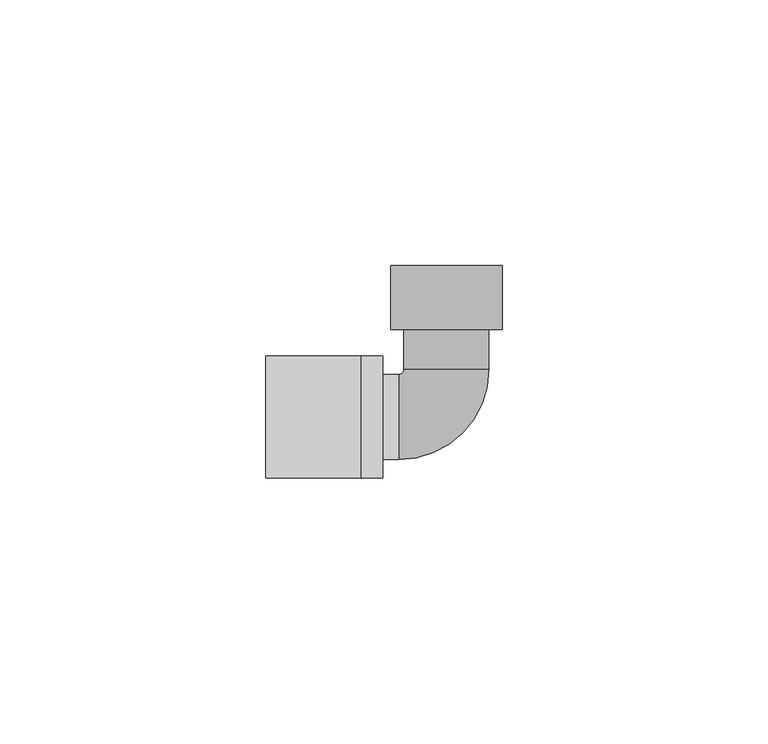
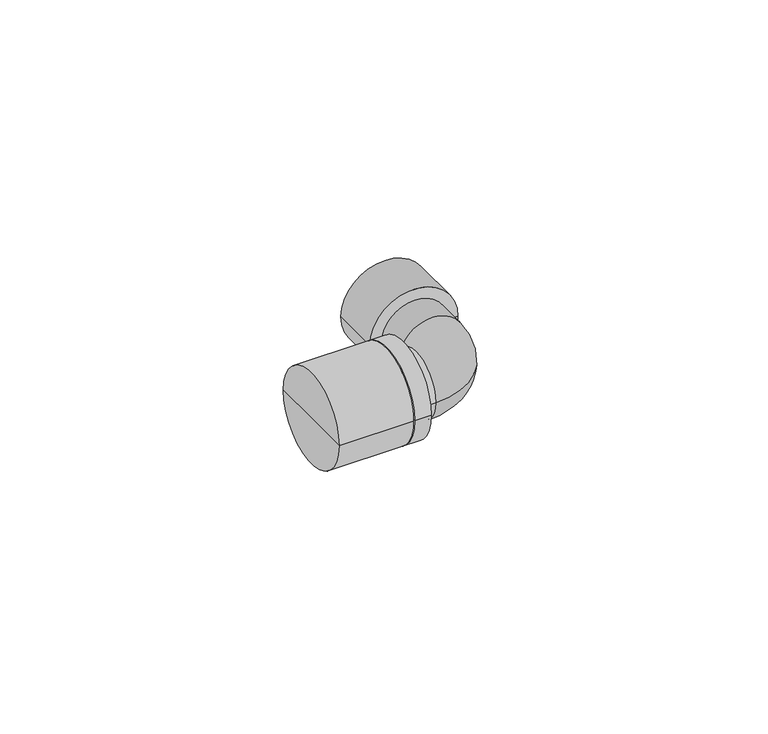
"""IFC4 building model written with IfcOpenShell, lengths in millimetres: pipe fitting geometry, KAN-therm Push 18x2 kolano gz 1-2 : KAN-therm Push 18x2 kolano gz 1-2."""

from ifc_helpers import new_model, si_unit, point, frame, origin, place, context, project, spatial, circle_curve, ellipse_curve, trimmed, source, transform, mapped, element, save
from ifc_brep_helpers import plane_surface, cylinder_surface, revolved_surface, advanced_brep


def pipe_fitting_71039134(model_context):
    return source(origin(), model_context, "Body", "AdvancedBrep", [
        advanced_brep(
        [(-16.0, 11.5, 0.0), (-16.0, -11.5, 0.0), (-16.0, 0.0, 0.0), (-12.0, 11.5, 0.0), (-12.0, -11.5, 0.0), (-12.0, 0.0, 0.0)],
        [
            (0, 1, circle_curve(frame((-16.0, 0.0, 0.0), z_axis=(-1.0, 0.0, 0.0), x_axis=(0.0, -1.0, 0.0)), 11.5)),
            (1, 2),
            (2, 0),
            (1, 0, circle_curve(frame((-16.0, 0.0, 0.0), z_axis=(-1.0, 0.0, 0.0), x_axis=(0.0, -1.0, 0.0)), 11.5)),
            (3, 4, circle_curve(frame((-12.0, 0.0, 0.0), z_axis=(-1.0, 0.0, 0.0), x_axis=(0.0, -1.0, 0.0)), 11.5)),
            (4, 1),
            (0, 3),
            (4, 3, circle_curve(frame((-12.0, 0.0, 0.0), z_axis=(-1.0, 0.0, 0.0), x_axis=(0.0, -1.0, 0.0)), 11.5)),
            (5, 4),
            (3, 5),
        ],
        [
            plane_surface(frame((-16.0, 0.0, 0.0), z_axis=(-1.0, 0.0, 0.0), x_axis=(0.0, -1.0, 0.0))),
            cylinder_surface(frame((-2011.0, 0.0, 0.0), z_axis=(1.0, 0.0, 0.0), x_axis=(0.0, -1.0, 0.0)), 11.5),
            plane_surface(frame((-12.0, 0.0, 0.0), z_axis=(1.0, 0.0, 0.0), x_axis=(0.0, -1.0, 0.0))),
        ],
        [
            (0, [[1, 2, 3]]),
            (0, [[4, -3, -2]]),
            (1, [[5, 6, -1, 7]]),
            (1, [[8, -7, -4, -6]]),
            (2, [[9, -5, 10]]),
            (2, [[-10, -8, -9]]),
        ],
    ),
        advanced_brep(
        [(-34.0, 11.5, 0.0), (-34.0, -11.5, 0.0), (-34.0, 0.0, 0.0), (-16.0, 11.5, 0.0), (-16.0, -11.5, 0.0), (-16.0, 0.0, 0.0)],
        [
            (0, 1, circle_curve(frame((-34.0, 0.0, 0.0), z_axis=(-1.0, 0.0, 0.0), x_axis=(0.0, -1.0, 0.0)), 11.5)),
            (1, 2),
            (2, 0),
            (1, 0, circle_curve(frame((-34.0, 0.0, 0.0), z_axis=(-1.0, 0.0, 0.0), x_axis=(0.0, -1.0, 0.0)), 11.5)),
            (3, 4, circle_curve(frame((-16.0, 0.0, 0.0), z_axis=(-1.0, 0.0, 0.0), x_axis=(0.0, -1.0, 0.0)), 11.5)),
            (4, 1),
            (0, 3),
            (4, 3, circle_curve(frame((-16.0, 0.0, 0.0), z_axis=(-1.0, 0.0, 0.0), x_axis=(0.0, -1.0, 0.0)), 11.5)),
            (5, 4),
            (3, 5),
        ],
        [
            plane_surface(frame((-34.0, 0.0, 0.0), z_axis=(-1.0, 0.0, 0.0), x_axis=(0.0, -1.0, 0.0))),
            cylinder_surface(frame((-2011.0, 0.0, 0.0), z_axis=(1.0, 0.0, 0.0), x_axis=(0.0, -1.0, 0.0)), 11.5),
            plane_surface(frame((-16.0, 0.0, 0.0), z_axis=(1.0, 0.0, 0.0), x_axis=(0.0, -1.0, 0.0))),
        ],
        [
            (0, [[1, 2, 3]]),
            (0, [[4, -3, -2]]),
            (1, [[5, 6, -1, 7]]),
            (1, [[8, -7, -4, -6]]),
            (2, [[9, -5, 10]]),
            (2, [[-10, -8, -9]]),
        ],
    ),
        advanced_brep(
        [(0.0, 28.5, 0.0), (10.5, 28.5, 0.0), (-10.5, 28.5, 0.0), (-10.5, 16.5, 0.0), (10.5, 16.5, 0.0), (0.0, 16.5, 0.0)],
        [
            (0, 1),
            (1, 2, circle_curve(frame((0.0, 28.5, 0.0), z_axis=(0.0, 1.0, 0.0), x_axis=(1.0, 0.0, 0.0)), 10.5)),
            (2, 0),
            (2, 1, circle_curve(frame((0.0, 28.5, 0.0), z_axis=(0.0, 1.0, 0.0), x_axis=(1.0, 0.0, 0.0)), 10.5)),
            (3, 4, circle_curve(frame((0.0, 16.5, 0.0), z_axis=(0.0, -1.0, 0.0), x_axis=(1.0, 0.0, 0.0)), 10.5)),
            (4, 5),
            (5, 3),
            (4, 3, circle_curve(frame((0.0, 16.5, 0.0), z_axis=(0.0, -1.0, 0.0), x_axis=(1.0, 0.0, 0.0)), 10.5)),
            (1, 4),
            (3, 2),
        ],
        [
            plane_surface(frame((0.0, 28.5, 0.0), z_axis=(0.0, 1.0, 0.0), x_axis=(1.0, 0.0, 0.0))),
            plane_surface(frame((0.0, 16.5, 0.0), z_axis=(0.0, -1.0, 0.0), x_axis=(1.0, 0.0, 0.0))),
            cylinder_surface(frame((0.0, 1999.5, 0.0), z_axis=(0.0, 1.0, 0.0), x_axis=(1.0, 0.0, 0.0)), 10.5),
        ],
        [
            (0, [[1, 2, 3]]),
            (0, [[-3, 4, -1]]),
            (1, [[5, 6, 7]]),
            (1, [[8, -7, -6]]),
            (2, [[-2, 9, -5, 10]]),
            (2, [[-4, -10, -8, -9]]),
        ],
    ),
        advanced_brep(
        [(-8.0, 16.5, 0.0), (8.0, 16.5, 0.0), (-16.0, 8.0, 0.0), (-16.0, -8.0, 0.0), (-9.0, -8.0, 0.0), (-9.0, 8.0, 0.0), (-8.0, 9.0, 0.0), (8.0, 9.0, 0.0)],
        [
            (0, 1, circle_curve(frame((0.0, 16.5, 0.0), z_axis=(0.0, 1.0, 0.0), x_axis=(1.0, 0.0, 0.0)), 8.0)),
            (1, 0, circle_curve(frame((0.0, 16.5, 0.0), z_axis=(0.0, 1.0, 0.0), x_axis=(1.0, 0.0, 0.0)), 8.0)),
            (2, 3, circle_curve(frame((-16.0, 0.0, 0.0), z_axis=(-1.0, 0.0, 0.0), x_axis=(0.0, -1.0, 0.0)), 8.0)),
            (3, 2, circle_curve(frame((-16.0, 0.0, 0.0), z_axis=(-1.0, 0.0, 0.0), x_axis=(0.0, -1.0, 0.0)), 8.0)),
            (4, 5, circle_curve(frame((-9.0, 0.0, 0.0), z_axis=(-1.0, 0.0, 0.0), x_axis=(0.0, -1.0, 0.0)), 8.0)),
            (5, 2),
            (3, 4),
            (5, 4, circle_curve(frame((-9.0, 0.0, 0.0), z_axis=(-1.0, 0.0, 0.0), x_axis=(0.0, -1.0, 0.0)), 8.0)),
            (0, 6),
            (6, 7, circle_curve(frame((0.0, 9.0, 0.0), z_axis=(0.0, 1.0, 0.0), x_axis=(1.0, 0.0, 0.0)), 8.0)),
            (7, 1),
            (7, 6, circle_curve(frame((0.0, 9.0, 0.0), z_axis=(0.0, 1.0, 0.0), x_axis=(1.0, 0.0, 0.0)), 8.0)),
            (4, 7, circle_curve(frame((-9.0, 9.0, 0.0), z_axis=(0.0, 0.0, 1.0), x_axis=(1.0, 0.0, 0.0)), 17.0)),
            (6, 5, circle_curve(frame((-9.0, 9.0, 0.0), z_axis=(0.0, 0.0, -1.0), x_axis=(1.0, 0.0, 0.0)), 1.0)),
        ],
        [
            plane_surface(frame((0.0, 16.5, 0.0), z_axis=(0.0, 1.0, 0.0), x_axis=(0.0, 0.0, 1.0))),
            plane_surface(frame((-16.0, 0.0, 0.0), z_axis=(-1.0, 0.0, 0.0), x_axis=(0.0, 0.0, 1.0))),
            cylinder_surface(frame((-9.0, 0.0, 0.0), z_axis=(1.0, 0.0, 0.0), x_axis=(0.0, -1.0, 0.0)), 8.0),
            cylinder_surface(frame((0.0, 16.5, 0.0), z_axis=(0.0, 1.0, 0.0), x_axis=(1.0, 0.0, 0.0)), 8.0),
            revolved_surface(trimmed(ellipse_curve(frame((0.0, 9.0, 0.0), z_axis=(0.0, 1.0, 0.0), x_axis=(1.0, 0.0, 0.0)), 8.0, 8.0), [point((-8.0, 9.0, 0.0))], [point((8.0, 9.0, 0.0))], True, "CARTESIAN"), (-9.0, 9.0, 0.0), (0.0, 0.0, -1.0)),
            revolved_surface(trimmed(ellipse_curve(frame((0.0, 9.0, 0.0), z_axis=(0.0, 1.0, 0.0), x_axis=(1.0, 0.0, 0.0)), 8.0, 8.0), [point((8.0, 9.0, 0.0))], [point((-8.0, 9.0, 0.0))], True, "CARTESIAN"), (-9.0, 9.0, 0.0), (0.0, 0.0, -1.0)),
        ],
        [
            (0, [[1, 2]]),
            (1, [[3, 4]]),
            (2, [[5, 6, -4, 7]]),
            (2, [[8, -7, -3, -6]]),
            (3, [[-1, 9, 10, 11]]),
            (3, [[-2, -11, 12, -9]]),
            (4, [[13, -10, 14, -5]]),
            (5, [[-14, -12, -13, -8]]),
        ],
    ),
    ])


if __name__ == "__main__":
    model = new_model("IFC4")
    model_context = context("Model", 3, world=origin())
    ifc_project = project(units=[si_unit("LENGTHUNIT", "METRE", prefix="MILLI")], contexts=[model_context])
    site = spatial("IfcSite", under=ifc_project)
    building = spatial("IfcBuilding", under=site)
    placement = place(None, origin())
    pipe_fitting_shape = pipe_fitting_71039134(model_context)
    element("IfcPipeFitting", 1, ObjectType="KAN-therm Push 18x2 kolano gz 1-2 : KAN-therm Push 18x2 kolano gz 1-2", at=placement, inside=building, context=model_context, shape_type="MappedRepresentation", body=[
        mapped(pipe_fitting_shape, transform((0.0, 0.0, 0.0), x_axis=(1.0, 0.0, 0.0), y_axis=(0.0, 1.0, 0.0), z_axis=(0.0, 0.0, 1.0))),
    ])
    save(model, "model.ifc")
